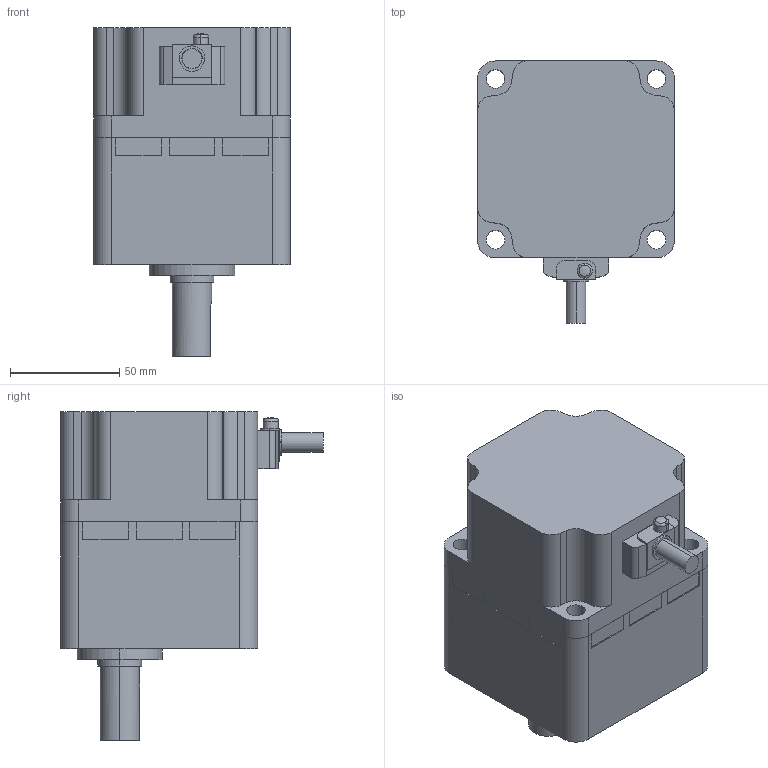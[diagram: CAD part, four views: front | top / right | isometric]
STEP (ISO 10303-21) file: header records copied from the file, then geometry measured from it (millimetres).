
FILE_DESCRIPTION (( 'STEP AP203' ), '1' );
FILE_NAME ('A1373B_S-9003245.STEP', '2014-11-20T04:28:55', ( 'om' ), ( 'Hewlett-Packard Company' ), 'SwSTEP 2.0', 'SolidWorks 2014', '' );
FILE_SCHEMA (( 'CONFIG_CONTROL_DESIGN' ));
Length unit declared in the file: millimetre
Products named in the file (1): A1373B_S-9003245
Bounding box: 90 x 120 x 150.4 mm (x, y, z)
Volume: 847276.8 mm3; surface area: 81747.8 mm2
Topology: 2 solids, 3 shells, 191 faces, 499 edges, 327 vertices
Faces by surface type: plane 106, cylinder 70, cone 10, bspline 5
Entity records: 6058 total; most frequent: CARTESIAN_POINT 1153, DIRECTION 1012, ORIENTED_EDGE 994, EDGE_CURVE 497, LINE 340, VECTOR 340, AXIS2_PLACEMENT_3D 336, VERTEX_POINT 327
